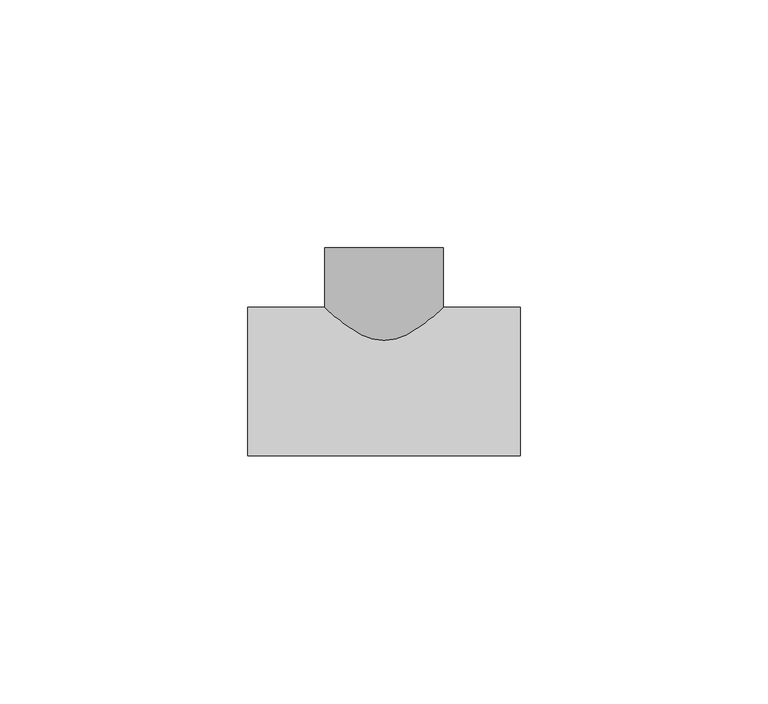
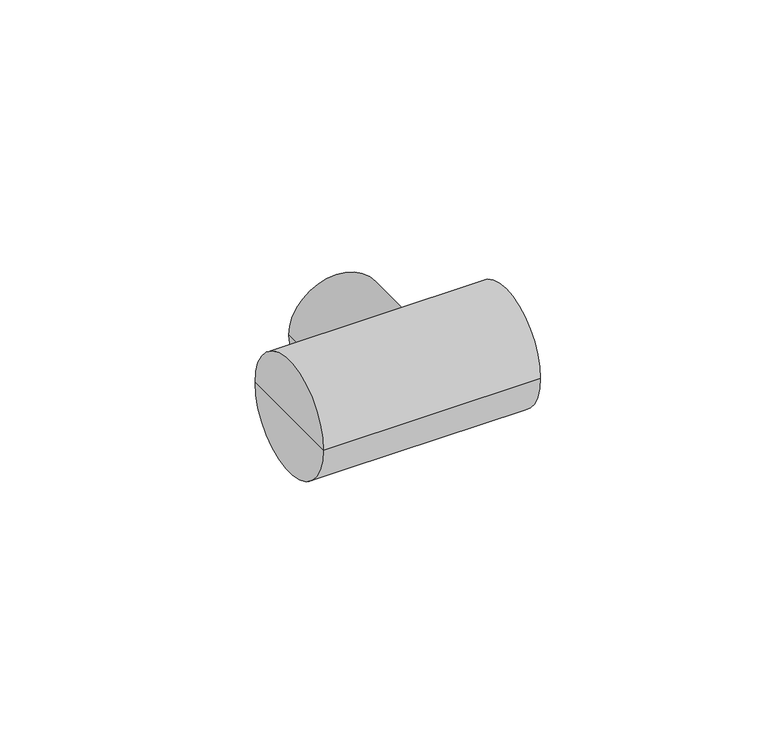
"""IFC4 building model written with IfcOpenShell, lengths in millimetres: pipe fitting geometry, KAN-therm PP trojnik redukcyjny : KAN-therm PP trojnik redukcyjny."""

from ifc_helpers import new_model, si_unit, frame, origin, place, context, project, spatial, circle_curve, source, transform, mapped, element, save
from ifc_brep_helpers import plane_surface, cylinder_surface, advanced_brep


def pipe_fitting_0102d526(model_context):
    return source(origin(), model_context, "Body", "AdvancedBrep", [
        advanced_brep(
        [(-12.0, 27.0, 0.0), (12.0, 27.0, 0.0), (12.0, 0.0, 0.0), (-12.0, 0.0, 0.0), (0.0, 27.0, 0.0), (0.0, 0.0, 0.0)],
        [
            (0, 1, circle_curve(frame((0.0, 27.0, 0.0), z_axis=(0.0, -1.0, 0.0), x_axis=(1.0, 0.0, 0.0)), 12.0)),
            (1, 2),
            (2, 3, circle_curve(frame((0.0, 0.0, 0.0), z_axis=(0.0, 1.0, 0.0), x_axis=(1.0, 0.0, 0.0)), 12.0)),
            (3, 0),
            (1, 0, circle_curve(frame((0.0, 27.0, 0.0), z_axis=(0.0, -1.0, 0.0), x_axis=(1.0, 0.0, 0.0)), 12.0)),
            (3, 2, circle_curve(frame((0.0, 0.0, 0.0), z_axis=(0.0, 1.0, 0.0), x_axis=(1.0, 0.0, 0.0)), 12.0)),
            (4, 1),
            (0, 4),
            (2, 5),
            (5, 3),
        ],
        [
            cylinder_surface(frame((0.0, 2000.0, 0.0), z_axis=(0.0, 1.0, 0.0), x_axis=(1.0, 0.0, 0.0)), 12.0),
            plane_surface(frame((0.0, 27.0, 0.0), z_axis=(0.0, 1.0, 0.0), x_axis=(1.0, 0.0, 0.0))),
            plane_surface(frame((0.0, 0.0, 0.0), z_axis=(0.0, -1.0, 0.0), x_axis=(1.0, 0.0, 0.0))),
        ],
        [
            (0, [[1, 2, 3, 4]]),
            (0, [[5, -4, 6, -2]]),
            (1, [[7, -1, 8]]),
            (1, [[-8, -5, -7]]),
            (2, [[-3, 9, 10]]),
            (2, [[-6, -10, -9]]),
        ],
    ),
        advanced_brep(
        [(27.5, 0.0, 0.0), (27.5, -15.0, 0.0), (27.5, 15.0, 0.0), (-27.5, 15.0, 0.0), (-27.5, -15.0, 0.0), (-27.5, 0.0, 0.0)],
        [
            (0, 1),
            (1, 2, circle_curve(frame((27.5, 0.0, 0.0), z_axis=(1.0, 0.0, 0.0), x_axis=(0.0, -1.0, 0.0)), 15.0)),
            (2, 0),
            (2, 1, circle_curve(frame((27.5, 0.0, 0.0), z_axis=(1.0, 0.0, 0.0), x_axis=(0.0, -1.0, 0.0)), 15.0)),
            (3, 4, circle_curve(frame((-27.5, 0.0, 0.0), z_axis=(-1.0, 0.0, 0.0), x_axis=(0.0, -1.0, 0.0)), 15.0)),
            (4, 5),
            (5, 3),
            (4, 3, circle_curve(frame((-27.5, 0.0, 0.0), z_axis=(-1.0, 0.0, 0.0), x_axis=(0.0, -1.0, 0.0)), 15.0)),
            (1, 4),
            (3, 2),
        ],
        [
            plane_surface(frame((27.5, 0.0, 0.0), z_axis=(1.0, 0.0, 0.0), x_axis=(0.0, -1.0, 0.0))),
            plane_surface(frame((-27.5, 0.0, 0.0), z_axis=(-1.0, 0.0, 0.0), x_axis=(0.0, -1.0, 0.0))),
            cylinder_surface(frame((2000.0, 0.0, 0.0), z_axis=(1.0, 0.0, 0.0), x_axis=(0.0, -1.0, 0.0)), 15.0),
        ],
        [
            (0, [[1, 2, 3]]),
            (0, [[-3, 4, -1]]),
            (1, [[5, 6, 7]]),
            (1, [[8, -7, -6]]),
            (2, [[-2, 9, -5, 10]]),
            (2, [[-4, -10, -8, -9]]),
        ],
    ),
    ])


if __name__ == "__main__":
    model = new_model("IFC4")
    model_context = context("Model", 3, world=origin())
    ifc_project = project(units=[si_unit("LENGTHUNIT", "METRE", prefix="MILLI")], contexts=[model_context])
    site = spatial("IfcSite", under=ifc_project)
    building = spatial("IfcBuilding", under=site)
    placement = place(None, origin())
    pipe_fitting_shape = pipe_fitting_0102d526(model_context)
    element("IfcPipeFitting", 1, ObjectType="KAN-therm PP trojnik redukcyjny : KAN-therm PP trojnik redukcyjny", at=placement, inside=building, context=model_context, shape_type="MappedRepresentation", body=[
        mapped(pipe_fitting_shape, transform((0.0, 0.0, 0.0), x_axis=(1.0, 0.0, 0.0), y_axis=(0.0, 1.0, 0.0), z_axis=(0.0, 0.0, 1.0))),
    ])
    save(model, "model.ifc")
